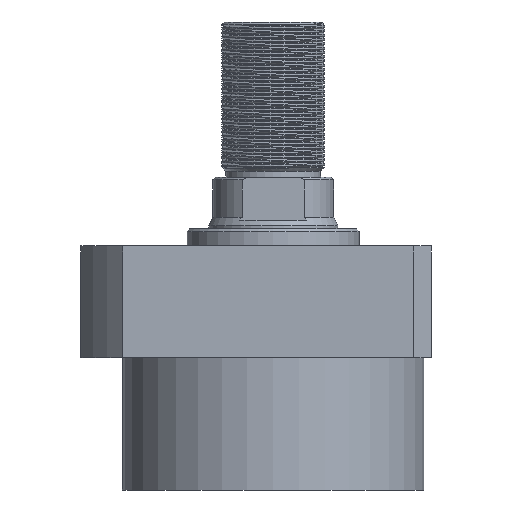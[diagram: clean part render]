
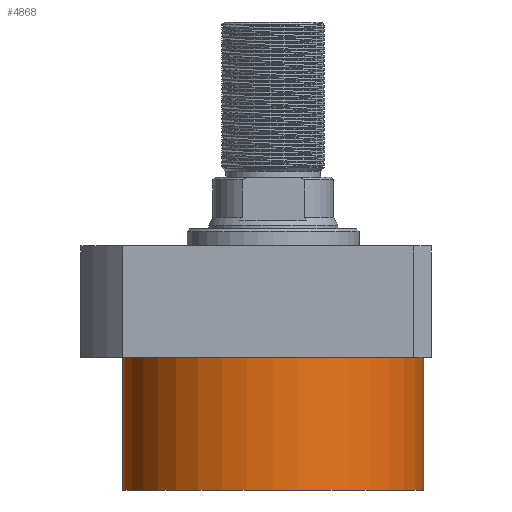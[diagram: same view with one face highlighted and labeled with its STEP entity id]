
A CAD part, front view. The second image highlights one B-rep face of the part: STEP entity #4868.
In plain terms, the highlighted cylindrical face has radius 52.5 mm (diameter 105 mm), a partial arc.
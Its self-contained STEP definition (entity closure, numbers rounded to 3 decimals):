
#521 = ORIENTED_EDGE ( 'NONE', *, *, #5534, .F. ) ;
#670 = CARTESIAN_POINT ( 'NONE',  ( 0., 0., -65.5 ) ) ;
#895 = CARTESIAN_POINT ( 'NONE',  ( 0., 0., -19.5 ) ) ;
#1300 = DIRECTION ( 'NONE',  ( -1., 0., 0. ) ) ;
#1530 = DIRECTION ( 'NONE',  ( 1., 0., 0. ) ) ;
#2128 = CIRCLE ( 'NONE', #6527, 52.5 ) ;
#2259 = VERTEX_POINT ( 'NONE', #3919 ) ;
#2420 = VERTEX_POINT ( 'NONE', #6463 ) ;
#2533 = CYLINDRICAL_SURFACE ( 'NONE', #5703, 52.5 ) ;
#2614 = FACE_OUTER_BOUND ( 'NONE', #7641, .T. ) ;
#2629 = VECTOR ( 'NONE', #7941, 1000. ) ;
#3713 = VERTEX_POINT ( 'NONE', #4818 ) ;
#3767 = LINE ( 'NONE', #6459, #5201 ) ;
#3886 = DIRECTION ( 'NONE',  ( 0., 0., 1. ) ) ;
#3919 = CARTESIAN_POINT ( 'NONE',  ( -52.5, 0., -19.5 ) ) ;
#4274 = CARTESIAN_POINT ( 'NONE',  ( -52.5, 0., -65.5 ) ) ;
#4533 = DIRECTION ( 'NONE',  ( 1., 0., 0. ) ) ;
#4612 = CARTESIAN_POINT ( 'NONE',  ( 52.5, 0., -65.5 ) ) ;
#4818 = CARTESIAN_POINT ( 'NONE',  ( -52.5, 0., -65.5 ) ) ;
#4868 = ADVANCED_FACE ( 'NONE', ( #2614 ), #2533, .T. ) ;
#4928 = ORIENTED_EDGE ( 'NONE', *, *, #5062, .T. ) ;
#5004 = DIRECTION ( 'NONE',  ( 0., 0., -1. ) ) ;
#5019 = EDGE_CURVE ( 'NONE', #2420, #2259, #2128, .T. ) ;
#5052 = VERTEX_POINT ( 'NONE', #4612 ) ;
#5062 = EDGE_CURVE ( 'NONE', #5052, #2420, #3767, .T. ) ;
#5117 = CARTESIAN_POINT ( 'NONE',  ( 0., 0., -65.5 ) ) ;
#5201 = VECTOR ( 'NONE', #5845, 1000. ) ;
#5224 = DIRECTION ( 'NONE',  ( 0., 0., -1. ) ) ;
#5379 = EDGE_CURVE ( 'NONE', #3713, #2259, #5683, .T. ) ;
#5534 = EDGE_CURVE ( 'NONE', #5052, #3713, #6755, .T. ) ;
#5638 = ORIENTED_EDGE ( 'NONE', *, *, #5019, .T. ) ;
#5683 = LINE ( 'NONE', #4274, #2629 ) ;
#5703 = AXIS2_PLACEMENT_3D ( 'NONE', #5117, #3886, #4533 ) ;
#5845 = DIRECTION ( 'NONE',  ( 0., 0., 1. ) ) ;
#6368 = AXIS2_PLACEMENT_3D ( 'NONE', #670, #5004, #1300 ) ;
#6459 = CARTESIAN_POINT ( 'NONE',  ( 52.5, 0., -65.5 ) ) ;
#6463 = CARTESIAN_POINT ( 'NONE',  ( 52.5, 0., -19.5 ) ) ;
#6527 = AXIS2_PLACEMENT_3D ( 'NONE', #895, #5224, #1530 ) ;
#6755 = CIRCLE ( 'NONE', #6368, 52.5 ) ;
#7112 = ORIENTED_EDGE ( 'NONE', *, *, #5379, .F. ) ;
#7641 = EDGE_LOOP ( 'NONE', ( #7112, #521, #4928, #5638 ) ) ;
#7941 = DIRECTION ( 'NONE',  ( 0., 0., 1. ) ) ;
